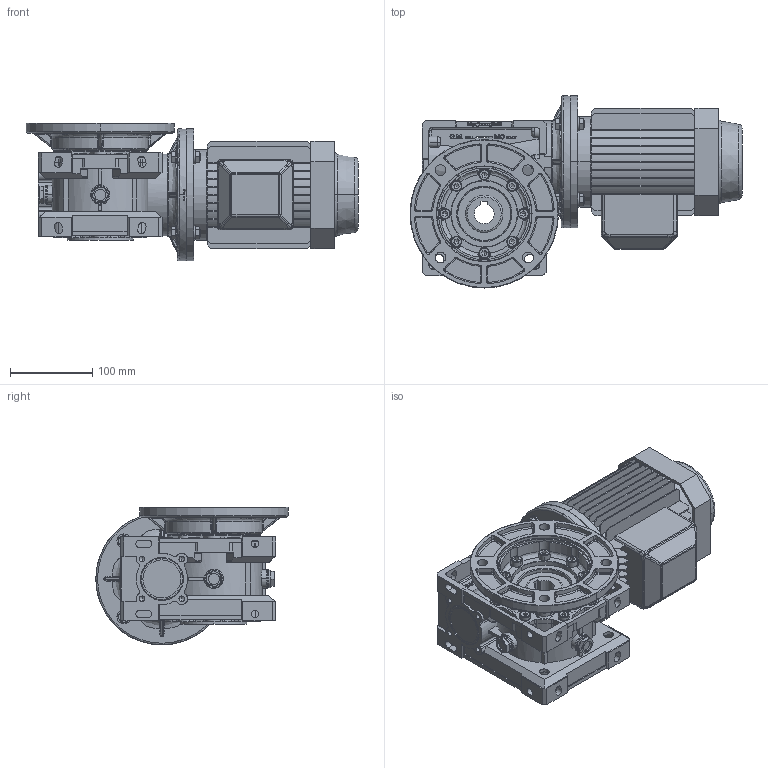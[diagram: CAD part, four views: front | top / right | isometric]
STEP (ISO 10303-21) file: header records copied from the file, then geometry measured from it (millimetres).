
FILE_DESCRIPTION((''),'2;1');
FILE_NAME('F:\Ghirri\3D\MV_V63\MVFU63_B5-71.stp','2005-06-15T17:14:27',('Administrator'),(''),'Autodesk Inventor 9','Autodesk Inventor 9','');
FILE_SCHEMA(('AUTOMOTIVE_DESIGN { 1 0 10303 214 1 1 1 1 }'));
Length unit declared in the file: millimetre
Products named in the file (19): MVFU63_B5-71; 4006301-A0; 4006304-A0; TCCE-8X16-ribassata; 4006308-A0; UNI-ISO 6194-1 (4) Tipo4 45 x  65 x  8; Capp-52-7; Guarnizione-tappo-3-8-gas; Tappo-3-8-gas-nero; DIN 3760  AS  (destra) AS - 35 x 62 x 7 - NBR; motori B5 71; FU_MV63; UNI 5931  (Filetto regolare) M 8 x  20; FM-63-75-D=160 b5; FM-63-75-D=160; UNI 6593 9 x 17; UNI 5739  (Filetto regolare) M8 x 30; UNI 5589  (Filetto regolare) M8
Assembly tree (50 placements, depth 3):
  MVFU63_B5-71
    4006301-A0
    4006304-A0
    TCCE-8X16-ribassata  x8
    4006308-A0
    UNI-ISO 6194-1 (4) Tipo4 45 x  65 x  8  x2
    Capp-52-7
    Guarnizione-tappo-3-8-gas  x3
    Tappo-3-8-gas-nero  x3
    DIN 3760  AS  (destra) AS - 35 x 62 x 7 - NBR
    motori B5 71
    FU_MV63
      FU_MV63
      UNI 5931  (Filetto regolare) M 8 x  20  x8
    FM-63-75-D=160 b5
      FM-63-75-D=160
      UNI 6593 9 x 17  x8
      UNI 5739  (Filetto regolare) M8 x 30  x4
      UNI 5589  (Filetto regolare) M8  x4
Bounding box: 402.5 x 233 x 167 mm (x, y, z)
Volume: 4616282.7 mm3; surface area: 763677.7 mm2
Topology: 48 solids, 49 shells, 4752 faces, 12309 edges, 7770 vertices
Faces by surface type: plane 1797, cylinder 1490, bspline 1092, cone 255, torus 114, sphere 4
Entity records: 158036 total; most frequent: CARTESIAN_POINT 58942, ORIENTED_EDGE 21484, DIRECTION 19694, EDGE_CURVE 10742, AXIS2_PLACEMENT_3D 7086, VERTEX_POINT 6894, VECTOR 5522, LINE 5522
